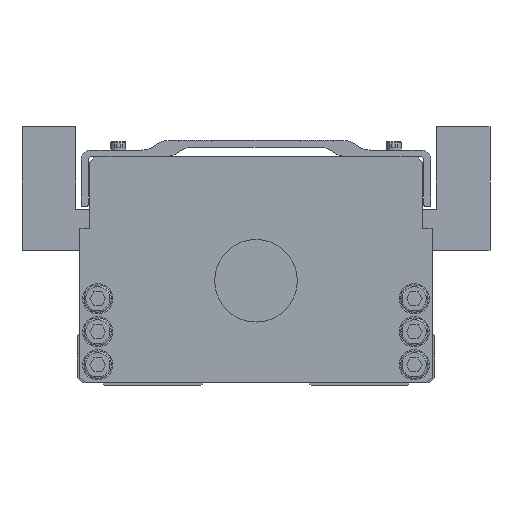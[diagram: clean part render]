
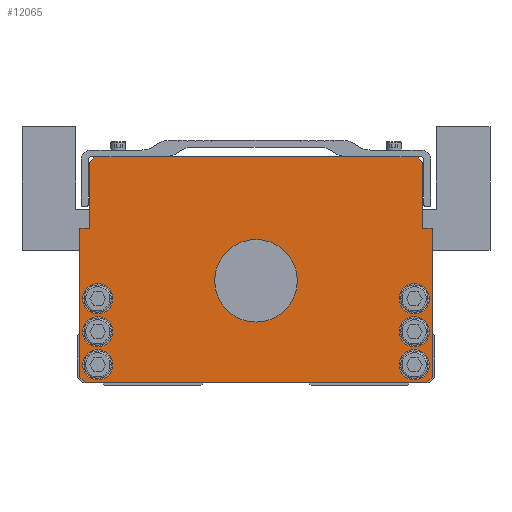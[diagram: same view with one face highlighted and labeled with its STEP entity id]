
A CAD part, front view. The second image highlights one B-rep face of the part: STEP entity #12065.
In plain terms, the highlighted planar face has unit normal (0, -1, 0).
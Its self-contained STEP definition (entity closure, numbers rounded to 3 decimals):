
#5233=VERTEX_POINT('',#15371);
#5383=EDGE_CURVE('',#14559,#6295,#15535,.T.);
#5463=VERTEX_POINT('',#15619);
#5703=VERTEX_POINT('',#15881);
#5953=VERTEX_POINT('',#16160);
#6055=VERTEX_POINT('',#16272);
#6217=EDGE_CURVE('',#11423,#6625,#16456,.T.);
#6295=VERTEX_POINT('',#16539);
#6625=VERTEX_POINT('',#16912);
#6631=VERTEX_POINT('',#16918);
#6785=EDGE_CURVE('',#13963,#14149,#17097,.T.);
#6969=EDGE_CURVE('',#6631,#8437,#17304,.T.);
#7025=VERTEX_POINT('',#17364);
#7273=EDGE_CURVE('',#14221,#7025,#17638,.T.);
#7335=VERTEX_POINT('',#17703);
#7583=VERTEX_POINT('',#17979);
#7723=VERTEX_POINT('',#18134);
#7735=EDGE_CURVE('',#8437,#6631,#18149,.T.);
#7937=EDGE_CURVE('',#5463,#7335,#18376,.T.);
#7953=EDGE_CURVE('',#7583,#5953,#18395,.T.);
#8361=EDGE_CURVE('',#7335,#5463,#18837,.T.);
#8437=VERTEX_POINT('',#18931);
#8541=VERTEX_POINT('',#19046);
#8823=VERTEX_POINT('',#19363);
#9041=EDGE_CURVE('',#10155,#12545,#19611,.T.);
#9211=EDGE_CURVE('',#12061,#12447,#19800,.T.);
#9289=EDGE_CURVE('',#6625,#11423,#19885,.T.);
#9861=VERTEX_POINT('',#20514);
#9983=EDGE_CURVE('',#14149,#12907,#20645,.T.);
#10023=EDGE_CURVE('',#8823,#5233,#20695,.T.);
#10155=VERTEX_POINT('',#20843);
#10759=EDGE_CURVE('',#6055,#5703,#21527,.T.);
#11423=VERTEX_POINT('',#22266);
#11559=EDGE_CURVE('',#12907,#10155,#22419,.T.);
#11713=EDGE_CURVE('',#12447,#12061,#22587,.T.);
#11925=VERTEX_POINT('',#22822);
#12061=VERTEX_POINT('',#22972);
#12065=ADVANCED_FACE('',(#22977,#22978,#22979,#22980,#22981,#22982,#22983,#22984),#22985,.T.);
#12247=EDGE_CURVE('',#9861,#13665,#23181,.T.);
#12369=EDGE_CURVE('',#7025,#8541,#23320,.T.);
#12447=VERTEX_POINT('',#23412);
#12545=VERTEX_POINT('',#23523);
#12619=EDGE_CURVE('',#5233,#13963,#23605,.T.);
#12907=VERTEX_POINT('',#23920);
#13451=EDGE_CURVE('',#7723,#14221,#24523,.T.);
#13561=EDGE_CURVE('',#8541,#14559,#24642,.T.);
#13665=VERTEX_POINT('',#24769);
#13867=EDGE_CURVE('',#5953,#7583,#24995,.T.);
#13963=VERTEX_POINT('',#25104);
#14149=VERTEX_POINT('',#25308);
#14221=VERTEX_POINT('',#25389);
#14287=EDGE_CURVE('',#6295,#8823,#25460,.T.);
#14559=VERTEX_POINT('',#25760);
#14635=EDGE_CURVE('',#5703,#6055,#25844,.T.);
#14663=EDGE_CURVE('',#11925,#7723,#25877,.T.);
#14719=EDGE_CURVE('',#12545,#11925,#25935,.T.);
#15117=EDGE_CURVE('',#13665,#9861,#26374,.T.);
#15371=CARTESIAN_POINT('',(-33.25,0.0,83.0));
#15535=LINE('',#26904,#26905);
#15619=CARTESIAN_POINT('',(52.0,0.0,7.5));
#15881=CARTESIAN_POINT('',(-15.0,0.0,38.0));
#16160=CARTESIAN_POINT('',(63.0,0.0,31.5));
#16272=CARTESIAN_POINT('',(15.0,0.0,38.0));
#16456=CIRCLE('',#28190,5.5);
#16539=CARTESIAN_POINT('',(-60.5,0.0,81.0));
#16912=CARTESIAN_POINT('',(-52.0,0.0,31.5));
#16918=CARTESIAN_POINT('',(-52.0,0.0,19.5));
#17097=LINE('',#29059,#29060);
#17304=CIRCLE('',#29336,5.5);
#17364=CARTESIAN_POINT('',(-64.0,0.0,3.0));
#17638=LINE('',#29798,#29799);
#17703=CARTESIAN_POINT('',(63.0,0.0,7.5));
#17979=CARTESIAN_POINT('',(52.0,0.0,31.5));
#18134=CARTESIAN_POINT('',(62.0,0.0,1.0));
#18149=CIRCLE('',#30498,5.5);
#18376=CIRCLE('',#30819,5.5);
#18395=CIRCLE('',#30843,5.5);
#18837=CIRCLE('',#31462,5.5);
#18931=CARTESIAN_POINT('',(-63.0,0.0,19.5));
#19046=CARTESIAN_POINT('',(-64.0,0.0,57.0));
#19363=CARTESIAN_POINT('',(-58.5,0.0,83.0));
#19611=LINE('',#32494,#32495);
#19800=CIRCLE('',#32741,5.5);
#19885=CIRCLE('',#32869,5.5);
#20514=CARTESIAN_POINT('',(52.0,0.0,19.5));
#20645=LINE('',#33912,#33913);
#20695=LINE('',#33972,#33973);
#20843=CARTESIAN_POINT('',(60.5,0.0,57.0));
#21527=CIRCLE('',#35105,15.0);
#22266=CARTESIAN_POINT('',(-63.0,0.0,31.5));
#22419=LINE('',#36354,#36355);
#22587=CIRCLE('',#36589,5.5);
#22822=CARTESIAN_POINT('',(64.0,0.0,3.0));
#22972=CARTESIAN_POINT('',(-63.0,0.0,7.5));
#22977=FACE_BOUND('',#37107,.T.);
#22978=FACE_BOUND('',#37108,.T.);
#22979=FACE_BOUND('',#37109,.T.);
#22980=FACE_BOUND('',#37110,.T.);
#22981=FACE_BOUND('',#37111,.T.);
#22982=FACE_BOUND('',#37112,.T.);
#22983=FACE_BOUND('',#37113,.T.);
#22984=FACE_OUTER_BOUND('',#37114,.T.);
#22985=PLANE('',#37115);
#23181=CIRCLE('',#37396,5.5);
#23320=LINE('',#37579,#37580);
#23412=CARTESIAN_POINT('',(-52.0,0.0,7.5));
#23523=CARTESIAN_POINT('',(64.0,0.0,57.0));
#23605=LINE('',#37964,#37965);
#23920=CARTESIAN_POINT('',(60.5,0.0,81.0));
#24523=LINE('',#39242,#39243);
#24642=LINE('',#39406,#39407);
#24769=CARTESIAN_POINT('',(63.0,0.0,19.5));
#24995=CIRCLE('',#39861,5.5);
#25104=CARTESIAN_POINT('',(33.25,0.0,83.0));
#25308=CARTESIAN_POINT('',(58.5,0.0,83.0));
#25389=CARTESIAN_POINT('',(-62.0,0.0,1.0));
#25460=LINE('',#40513,#40514);
#25760=CARTESIAN_POINT('',(-60.5,0.0,57.0));
#25844=CIRCLE('',#41041,15.0);
#25877=LINE('',#41078,#41079);
#25935=LINE('',#41162,#41163);
#26374=CIRCLE('',#41805,5.5);
#26904=CARTESIAN_POINT('',(-60.5,0.0,81.0));
#26905=VECTOR('',#42300,1.0);
#28190=AXIS2_PLACEMENT_3D('',#43342,#43343,#43344);
#29059=CARTESIAN_POINT('',(58.5,0.0,83.0));
#29060=VECTOR('',#44058,1.0);
#29336=AXIS2_PLACEMENT_3D('',#44270,#44271,#44272);
#29798=CARTESIAN_POINT('',(-64.0,0.0,3.0));
#29799=VECTOR('',#44646,1.);
#30498=AXIS2_PLACEMENT_3D('',#45246,#45247,#45248);
#30819=AXIS2_PLACEMENT_3D('',#45522,#45523,#45524);
#30843=AXIS2_PLACEMENT_3D('',#45548,#45549,#45550);
#31462=AXIS2_PLACEMENT_3D('',#46008,#46009,#46010);
#32494=CARTESIAN_POINT('',(64.0,0.0,57.0));
#32495=VECTOR('',#46962,1.0);
#32741=AXIS2_PLACEMENT_3D('',#47159,#47160,#47161);
#32869=AXIS2_PLACEMENT_3D('',#47243,#47244,#47245);
#33912=CARTESIAN_POINT('',(60.5,0.0,81.0));
#33913=VECTOR('',#48067,1.);
#33972=CARTESIAN_POINT('',(58.5,0.0,83.0));
#33973=VECTOR('',#48154,1.0);
#35105=AXIS2_PLACEMENT_3D('',#49257,#49258,#49259);
#36354=CARTESIAN_POINT('',(60.5,0.0,57.0));
#36355=VECTOR('',#50247,1.0);
#36589=AXIS2_PLACEMENT_3D('',#50426,#50427,#50428);
#37107=EDGE_LOOP('',(#50837,#50838));
#37108=EDGE_LOOP('',(#50839,#50840));
#37109=EDGE_LOOP('',(#50841,#50842));
#37110=EDGE_LOOP('',(#50843,#50844));
#37111=EDGE_LOOP('',(#50845,#50846));
#37112=EDGE_LOOP('',(#50847,#50848));
#37113=EDGE_LOOP('',(#50849,#50850));
#37114=EDGE_LOOP('',(#50851,#50852,#50853,#50854,#50855,#50856,#50857,#50858,#50859,#50860,#50861,#50862,#50863,#50864));
#37115=AXIS2_PLACEMENT_3D('',#50865,#50866,#50867);
#37396=AXIS2_PLACEMENT_3D('',#51065,#51066,#51067);
#37579=CARTESIAN_POINT('',(-64.0,0.0,57.0));
#37580=VECTOR('',#51234,1.0);
#37964=CARTESIAN_POINT('',(58.5,0.0,83.0));
#37965=VECTOR('',#51599,1.0);
#39242=CARTESIAN_POINT('',(-62.0,0.0,1.0));
#39243=VECTOR('',#52638,1.0);
#39406=CARTESIAN_POINT('',(-60.5,0.0,57.0));
#39407=VECTOR('',#52767,1.0);
#39861=AXIS2_PLACEMENT_3D('',#53201,#53202,#53203);
#40513=CARTESIAN_POINT('',(-58.5,0.0,83.0));
#40514=VECTOR('',#53730,1.);
#41041=AXIS2_PLACEMENT_3D('',#54185,#54186,#54187);
#41078=CARTESIAN_POINT('',(62.0,0.0,1.0));
#41079=VECTOR('',#54242,1.);
#41162=CARTESIAN_POINT('',(64.0,0.0,3.0));
#41163=VECTOR('',#54290,1.0);
#41805=AXIS2_PLACEMENT_3D('',#54811,#54812,#54813);
#42300=DIRECTION('',(0.0,0.0,1.0));
#43342=CARTESIAN_POINT('',(-57.5,0.0,31.5));
#43343=DIRECTION('',(-0.0,1.0,0.0));
#43344=DIRECTION('',(1.0,0.0,0.0));
#44058=DIRECTION('',(1.0,0.0,0.0));
#44270=CARTESIAN_POINT('',(-57.5,0.0,19.5));
#44271=DIRECTION('',(-0.0,1.0,0.0));
#44272=DIRECTION('',(1.0,0.0,0.0));
#44646=DIRECTION('',(-0.707,0.0,0.707));
#45246=CARTESIAN_POINT('',(-57.5,0.0,19.5));
#45247=DIRECTION('',(-0.0,1.0,0.0));
#45248=DIRECTION('',(1.0,0.0,0.0));
#45522=CARTESIAN_POINT('',(57.5,0.0,7.5));
#45523=DIRECTION('',(-0.0,1.0,0.0));
#45524=DIRECTION('',(1.0,0.0,0.0));
#45548=CARTESIAN_POINT('',(57.5,0.0,31.5));
#45549=DIRECTION('',(-0.0,1.0,0.0));
#45550=DIRECTION('',(1.0,0.0,0.0));
#46008=CARTESIAN_POINT('',(57.5,0.0,7.5));
#46009=DIRECTION('',(-0.0,1.0,0.0));
#46010=DIRECTION('',(1.0,0.0,0.0));
#46962=DIRECTION('',(1.0,0.0,0.0));
#47159=CARTESIAN_POINT('',(-57.5,0.0,7.5));
#47160=DIRECTION('',(-0.0,1.0,0.0));
#47161=DIRECTION('',(1.0,0.0,0.0));
#47243=CARTESIAN_POINT('',(-57.5,0.0,31.5));
#47244=DIRECTION('',(-0.0,1.0,0.0));
#47245=DIRECTION('',(1.0,0.0,0.0));
#48067=DIRECTION('',(0.707,0.0,-0.707));
#48154=DIRECTION('',(1.0,0.0,0.0));
#49257=CARTESIAN_POINT('',(0.0,0.0,38.0));
#49258=DIRECTION('',(-0.0,1.0,0.0));
#49259=DIRECTION('',(1.0,0.0,0.0));
#50247=DIRECTION('',(-0.0,0.0,-1.0));
#50426=CARTESIAN_POINT('',(-57.5,0.0,7.5));
#50427=DIRECTION('',(-0.0,1.0,0.0));
#50428=DIRECTION('',(1.0,0.0,0.0));
#50837=ORIENTED_EDGE('',*,*,#10759,.T.);
#50838=ORIENTED_EDGE('',*,*,#14635,.T.);
#50839=ORIENTED_EDGE('',*,*,#13867,.T.);
#50840=ORIENTED_EDGE('',*,*,#7953,.T.);
#50841=ORIENTED_EDGE('',*,*,#15117,.T.);
#50842=ORIENTED_EDGE('',*,*,#12247,.T.);
#50843=ORIENTED_EDGE('',*,*,#8361,.T.);
#50844=ORIENTED_EDGE('',*,*,#7937,.T.);
#50845=ORIENTED_EDGE('',*,*,#9289,.T.);
#50846=ORIENTED_EDGE('',*,*,#6217,.T.);
#50847=ORIENTED_EDGE('',*,*,#6969,.T.);
#50848=ORIENTED_EDGE('',*,*,#7735,.T.);
#50849=ORIENTED_EDGE('',*,*,#11713,.T.);
#50850=ORIENTED_EDGE('',*,*,#9211,.T.);
#50851=ORIENTED_EDGE('',*,*,#7273,.F.);
#50852=ORIENTED_EDGE('',*,*,#13451,.F.);
#50853=ORIENTED_EDGE('',*,*,#14663,.F.);
#50854=ORIENTED_EDGE('',*,*,#14719,.F.);
#50855=ORIENTED_EDGE('',*,*,#9041,.F.);
#50856=ORIENTED_EDGE('',*,*,#11559,.F.);
#50857=ORIENTED_EDGE('',*,*,#9983,.F.);
#50858=ORIENTED_EDGE('',*,*,#6785,.F.);
#50859=ORIENTED_EDGE('',*,*,#12619,.F.);
#50860=ORIENTED_EDGE('',*,*,#10023,.F.);
#50861=ORIENTED_EDGE('',*,*,#14287,.F.);
#50862=ORIENTED_EDGE('',*,*,#5383,.F.);
#50863=ORIENTED_EDGE('',*,*,#13561,.F.);
#50864=ORIENTED_EDGE('',*,*,#12369,.F.);
#50865=CARTESIAN_POINT('',(0.,0.0,41.562));
#50866=DIRECTION('',(0.0,-1.0,0.0));
#50867=DIRECTION('',(1.0,0.0,0.0));
#51065=CARTESIAN_POINT('',(57.5,0.0,19.5));
#51066=DIRECTION('',(-0.0,1.0,0.0));
#51067=DIRECTION('',(1.0,0.0,0.0));
#51234=DIRECTION('',(0.0,0.0,1.0));
#51599=DIRECTION('',(1.0,0.0,0.0));
#52638=DIRECTION('',(-1.0,0.0,-0.0));
#52767=DIRECTION('',(1.0,0.0,0.0));
#53201=CARTESIAN_POINT('',(57.5,0.0,31.5));
#53202=DIRECTION('',(-0.0,1.0,0.0));
#53203=DIRECTION('',(1.0,0.0,0.0));
#53730=DIRECTION('',(0.707,0.0,0.707));
#54185=CARTESIAN_POINT('',(0.0,0.0,38.0));
#54186=DIRECTION('',(-0.0,1.0,0.0));
#54187=DIRECTION('',(1.0,0.0,0.0));
#54242=DIRECTION('',(-0.707,0.0,-0.707));
#54290=DIRECTION('',(-0.0,0.0,-1.0));
#54811=CARTESIAN_POINT('',(57.5,0.0,19.5));
#54812=DIRECTION('',(-0.0,1.0,0.0));
#54813=DIRECTION('',(1.0,0.0,0.0));
